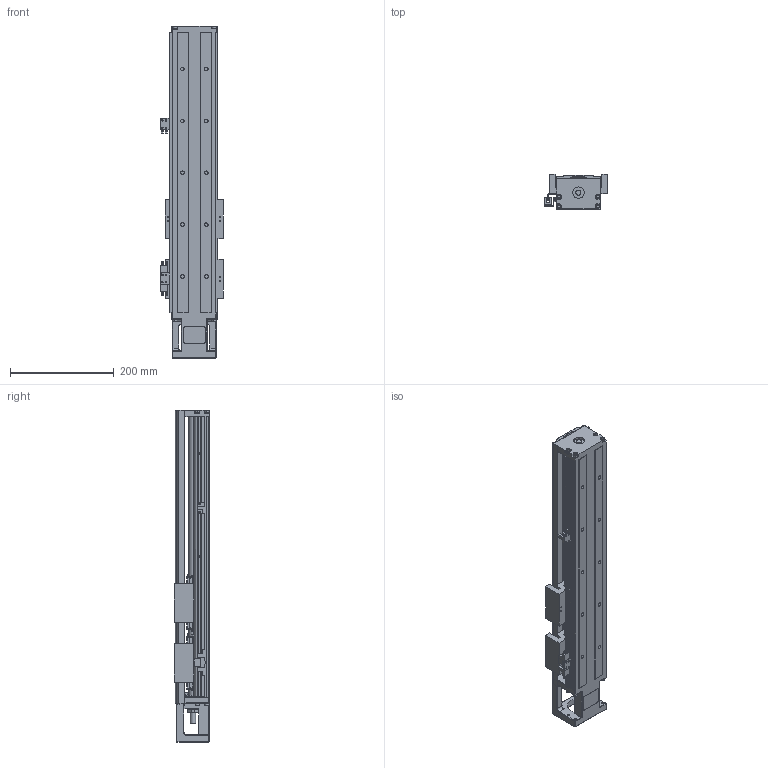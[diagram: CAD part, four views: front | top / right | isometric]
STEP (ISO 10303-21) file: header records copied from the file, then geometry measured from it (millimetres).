
FILE_DESCRIPTION (( 'STEP AP214' ), '1' );
FILE_NAME ('SFKK86-540A2-F0C.STEP', '2022-05-05T12:08:57', ( '微软用户' ), ( '微软中国' ), 'SwSTEP 2.0', 'SolidWorks 2018', '' );
FILE_SCHEMA (( 'AUTOMOTIVE_DESIGN' ));
Length unit declared in the file: millimetre
Products named in the file (11): 极限轨道与开关固定座组合_540; SFKK86-LR 憤癹寢耋_540; SX674嫖萇羲壽; SFKK86-A1-C; 带盖挡光片：KK-86-S2-D1; SFKK86-540A2-F0C; SFKK86-CU_540; hexagon socket countersunk head screws gb_GB_FASTENER_SCREWS_HSCHS M4X10-N; hexagon socket countersunk head screws gb_GB_FASTENER_SCREWS_HSCHS M3X8-N; SFKK86-F0_KKR86-ZT-P-540; 开关固定座：KK-674S2-F
Assembly tree (18 placements, depth 3):
  SFKK86-540A2-F0C
    SFKK86-F0_KKR86-ZT-P-540
    SFKK86-A1-C  x2
    极限轨道与开关固定座组合_540
      SFKK86-LR 憤癹寢耋_540
      开关固定座：KK-674S2-F  x2
    SX674嫖萇羲壽  x3
    带盖挡光片：KK-86-S2-D1
    hexagon socket countersunk head screws gb_GB_FASTENER_SCREWS_HSCHS M3X8-N  x2
    SFKK86-CU_540
    hexagon socket countersunk head screws gb_GB_FASTENER_SCREWS_HSCHS M4X10-N  x4
Bounding box: 121.25 x 68 x 640 mm (x, y, z)
Volume: 1912656.1 mm3; surface area: 587294.8 mm2
Topology: 60 solids, 60 shells, 2735 faces, 7010 edges, 4385 vertices
Faces by surface type: plane 1384, cylinder 912, cone 324, torus 85, sphere 24, bspline 6
Entity records: 55873 total; most frequent: CARTESIAN_POINT 12856, DIRECTION 8946, ORIENTED_EDGE 8460, EDGE_CURVE 4230, AXIS2_PLACEMENT_3D 3179, VERTEX_POINT 2698, VECTOR 2588, LINE 2588
